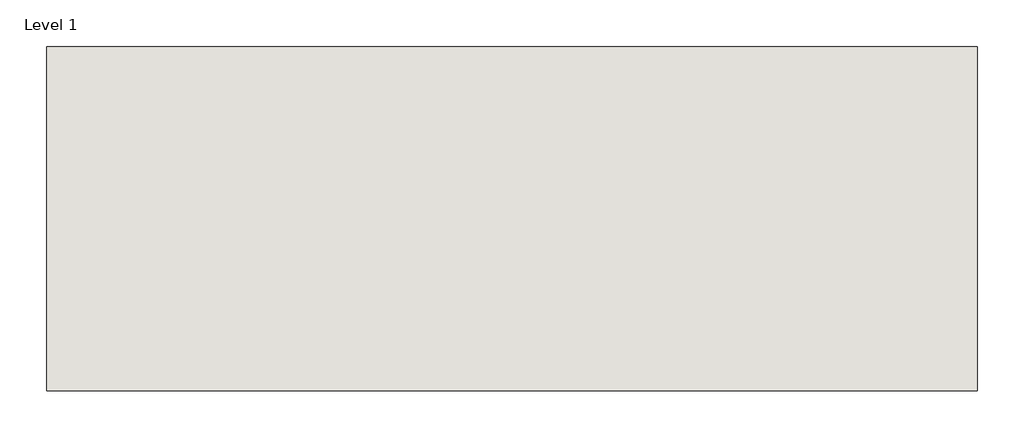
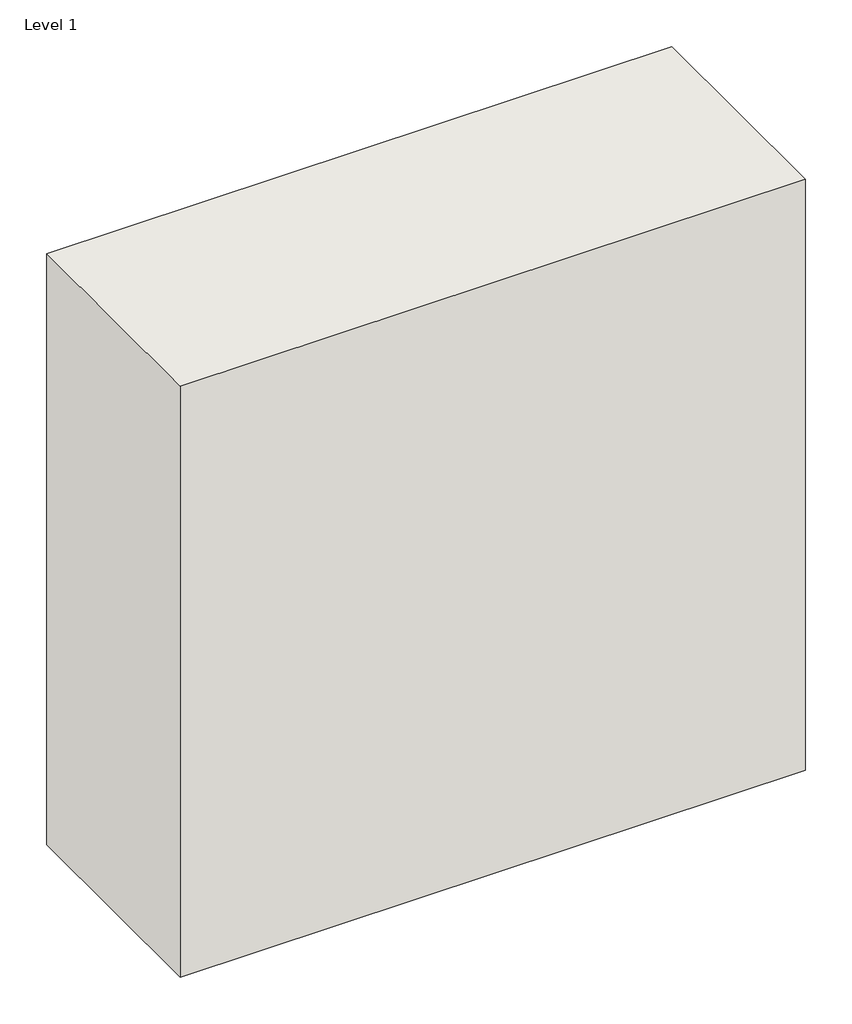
# One storey: 1 wall.
"""IFC4 building model written with IfcOpenShell, lengths in millimetres."""

from ifc_helpers import new_model, si_unit, origin, origin_with_axes, place, context, project, spatial, polyline, outline, extrude, element, save

model = new_model("IFC4")

# Units and contexts
model_context = context("Model", 3, world=origin())
ifc_project = project(units=[si_unit("LENGTHUNIT", "METRE", prefix="MILLI")], contexts=[model_context])

# Site, building, storey
site = spatial("IfcSite", under=ifc_project)
building = spatial("IfcBuilding", under=site)
storey = spatial("IfcBuildingStorey", under=building, Name="Level 1", Elevation=0.0)

# Wall
placement = place(None, origin())
element("IfcWall", 1, ObjectType="GYPTEC- REVESTIMENTO 95 BA13A + PRECERAM-PRO25", at=placement, inside=storey, context=model_context, shape_type="SweptSolid", body=[
    extrude(outline(polyline([(1000.0, -275.3485756), (0.0, -275.3485756), (0.0, 94.6514244), (1000.0, 94.6514244), (1000.0, -275.3485756)])), origin_with_axes(), (0.0, 0.0, 1.0), 1000.0),
])

save(model, "model.ifc")
